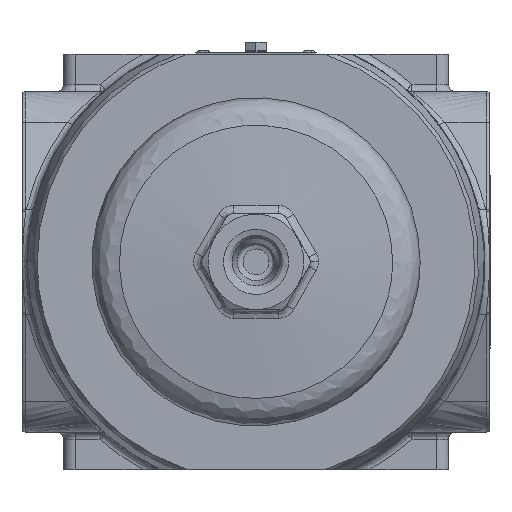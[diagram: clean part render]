
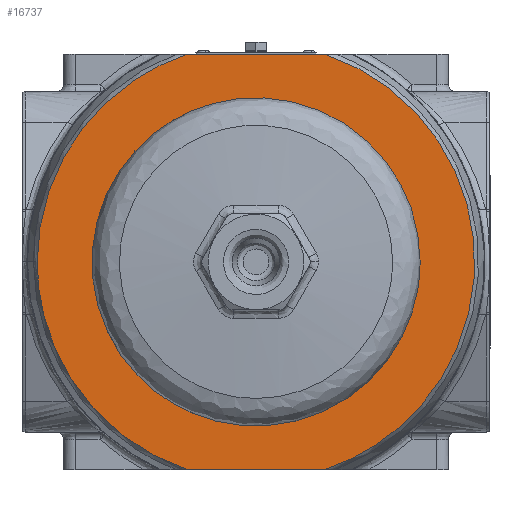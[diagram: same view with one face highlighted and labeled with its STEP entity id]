
A CAD part, front view. The second image highlights one B-rep face of the part: STEP entity #16737.
In plain terms, the highlighted free-form (B-spline) face has degree [1, 1] with [2, 2] control points.
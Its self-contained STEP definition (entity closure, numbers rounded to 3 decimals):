
#7543=CARTESIAN_POINT('V20',(54.0,0.,0.));
#7544=VERTEX_POINT('V20',#7543);
#7545=CARTESIAN_POINT('E31',(54.0,0.,0.));
#7546=CARTESIAN_POINT('E31',(54.0,0.,93.531)
   );
#7547=CARTESIAN_POINT('E31',(-27.0,0.,46.765)
   );
#7548=CARTESIAN_POINT('E31',(-108.0,0.,0.));
#7549=CARTESIAN_POINT('E31',(-27.0,0.,-46.765)
   );
#7550=CARTESIAN_POINT('E31',(54.0,0.,-93.531)
   );
#7551=CARTESIAN_POINT('E31',(54.0,0.,0.));
#7559=(BOUNDED_CURVE()B_SPLINE_CURVE(2,(#7545,#7546,#7547,#7548,
   #7549,#7550,#7551),.CIRCULAR_ARC.,.T.,.U.)
   B_SPLINE_CURVE_WITH_KNOTS((3,2,2,3),(0.0,0.333,
   0.667,1.0),.UNSPECIFIED.)CURVE()
   GEOMETRIC_REPRESENTATION_ITEM()RATIONAL_B_SPLINE_CURVE((1.0,
   0.5,1.0,0.5,1.0,0.5,1.0)
   )REPRESENTATION_ITEM('E31'));
#7560=EDGE_CURVE('E31',#7544,#7544,#7559,.T.);
#8102=CARTESIAN_POINT('V25',(-22.747,0.,
   -69.));
#8103=VERTEX_POINT('V25',#8102);
#8113=CARTESIAN_POINT('V26',(-72.653,0.,0.0)
   );
#8114=VERTEX_POINT('V26',#8113);
#8115=CARTESIAN_POINT('E37',(-22.747,0.,
   -69.));
#8116=CARTESIAN_POINT('E37',(-72.653,0.,
   -52.548));
#8117=CARTESIAN_POINT('E37',(-72.653,0.,0.0)
   );
#8125=(BOUNDED_CURVE()B_SPLINE_CURVE(2,(#8115,#8116,#8117),
   .CIRCULAR_ARC.,.F.,.U.)B_SPLINE_CURVE_WITH_KNOTS((3,3),(
   78.5,97.684),.UNSPECIFIED.)CURVE()
   GEOMETRIC_REPRESENTATION_ITEM()RATIONAL_B_SPLINE_CURVE((
   0.683,0.636,0.901))
   REPRESENTATION_ITEM('E37'));
#8126=EDGE_CURVE('E37',#8103,#8114,#8125,.T.);
#15065=CARTESIAN_POINT('V24',(22.747,0.,
   -69.));
#15066=VERTEX_POINT('V24',#15065);
#15076=CARTESIAN_POINT('E36',(22.747,0.0,-69.0));
#15077=CARTESIAN_POINT('E36',(-22.747,0.0,-69.0));
#15078=B_SPLINE_CURVE_WITH_KNOTS('E36',1,(#15076,#15077),
   .POLYLINE_FORM.,.F.,.U.,(2,2),(0.338,
   0.662),.UNSPECIFIED.);
#15079=EDGE_CURVE('E36',#15066,#8103,#15078,.T.);
#16671=CARTESIAN_POINT('V22',(-22.747,0.,
   69.));
#16672=VERTEX_POINT('V22',#16671);
#16684=CARTESIAN_POINT('E38',(-72.653,0.,0.0)
   );
#16685=CARTESIAN_POINT('E38',(-72.653,0.,
   52.548));
#16686=CARTESIAN_POINT('E38',(-22.747,0.,
   69.));
#16694=(BOUNDED_CURVE()B_SPLINE_CURVE(2,(#16684,#16685,#16686),
   .CIRCULAR_ARC.,.F.,.U.)B_SPLINE_CURVE_WITH_KNOTS((3,3),(0.0,
   19.183),.UNSPECIFIED.)CURVE()
   GEOMETRIC_REPRESENTATION_ITEM()RATIONAL_B_SPLINE_CURVE((
   0.901,0.636,0.683))
   REPRESENTATION_ITEM('E38'));
#16695=EDGE_CURVE('E38',#8114,#16672,#16694,.T.);
#16700=CARTESIAN_POINT('F20',(-88.0,0.,-88.0));
#16701=CARTESIAN_POINT('F20',(-88.0,0.,88.0));
#16702=CARTESIAN_POINT('F20',(88.0,0.,-88.0));
#16703=CARTESIAN_POINT('F20',(88.0,0.,88.0));
#16704=QUASI_UNIFORM_SURFACE('F20',1,1,((#16700,#16702),(#16701,
   #16703)),.PLANE_SURF.,.F.,.F.,.U.);
#16705=ORIENTED_EDGE('F301',*,*,#16695,.F.);
#16706=ORIENTED_EDGE('E37',*,*,#8126,.F.);
#16707=ORIENTED_EDGE('E36',*,*,#15079,.F.);
#16708=CARTESIAN_POINT('V23',(22.747,0.,
   69.));
#16709=VERTEX_POINT('V23',#16708);
#16710=CARTESIAN_POINT('E35',(22.747,0.,
   69.));
#16711=CARTESIAN_POINT('E35',(29.849,0.,
   66.658));
#16712=CARTESIAN_POINT('E35',(36.326,0.,
   62.919));
#16713=CARTESIAN_POINT('E35',(145.305,0.,
   0.));
#16714=CARTESIAN_POINT('E35',(36.326,0.,
   -62.919));
#16715=CARTESIAN_POINT('E35',(29.849,0.,
   -66.658));
#16716=CARTESIAN_POINT('E35',(22.747,0.,
   -69.));
#16724=(BOUNDED_CURVE()B_SPLINE_CURVE(2,(#16710,#16711,#16712,
   #16713,#16714,#16715,#16716),.CIRCULAR_ARC.,.F.,.U.)
   B_SPLINE_CURVE_WITH_KNOTS((3,2,2,3),(28.908,
   32.561,65.122,68.776),
   .UNSPECIFIED.)CURVE()GEOMETRIC_REPRESENTATION_ITEM()
   RATIONAL_B_SPLINE_CURVE((0.811,0.851,
   0.901,0.451,0.901,
   0.851,0.811))REPRESENTATION_ITEM('E35'));
#16725=EDGE_CURVE('E35',#16709,#15066,#16724,.T.);
#16726=ORIENTED_EDGE('E35',*,*,#16725,.F.);
#16727=CARTESIAN_POINT('E34',(-22.747,0.0,69.0));
#16728=CARTESIAN_POINT('E34',(22.747,0.0,69.0));
#16729=B_SPLINE_CURVE_WITH_KNOTS('E34',1,(#16727,#16728),
   .POLYLINE_FORM.,.F.,.U.,(2,2),(0.338,
   0.662),.UNSPECIFIED.);
#16730=EDGE_CURVE('E34',#16672,#16709,#16729,.T.);
#16731=ORIENTED_EDGE('E34',*,*,#16730,.F.);
#16732=EDGE_LOOP('F20',(#16705,#16706,#16707,#16726,#16731));
#16733=FACE_OUTER_BOUND('F20',#16732,.T.);
#16734=ORIENTED_EDGE('E31',*,*,#7560,.F.);
#16735=EDGE_LOOP('F20',(#16734));
#16736=FACE_BOUND('F20',#16735,.T.);
#16737=ADVANCED_FACE('F20',(#16733,#16736),#16704,.F.);
